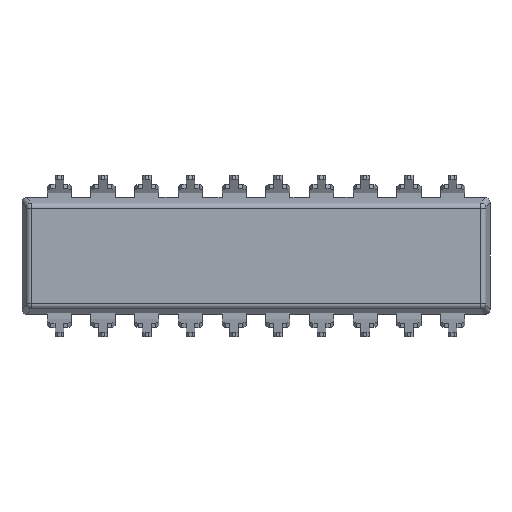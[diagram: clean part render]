
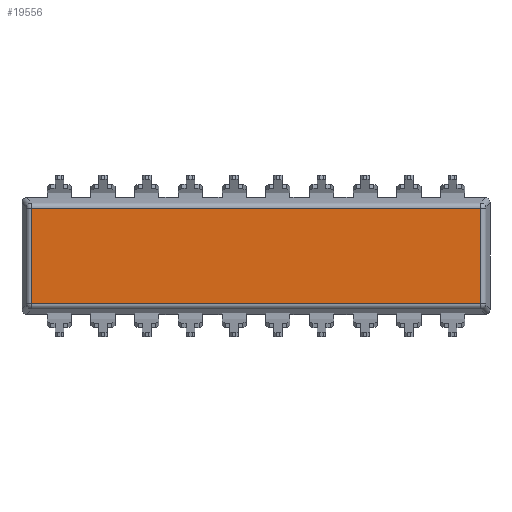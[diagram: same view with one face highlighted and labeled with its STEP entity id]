
A CAD part, front view. The second image highlights one B-rep face of the part: STEP entity #19556.
In plain terms, the highlighted planar face has unit normal (0, -1, 0).
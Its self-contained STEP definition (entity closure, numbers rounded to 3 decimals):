
#9930 = PLANE ( 'NONE',  #9993 ) ;
#9931 = FACE_OUTER_BOUND ( 'NONE', #19621, .T. ) ;
#9946 = CARTESIAN_POINT ( 'NONE',  ( 13.069, 0.5, -2.787 ) ) ;
#9947 = DIRECTION ( 'NONE',  ( 1., 0., 0. ) ) ;
#9948 = VECTOR ( 'NONE', #9947, 1000. ) ;
#9949 = CARTESIAN_POINT ( 'NONE',  ( -10.16, 0.5, -2.787 ) ) ;
#9950 = LINE ( 'NONE', #9949, #9948 ) ;
#9951 = CARTESIAN_POINT ( 'NONE',  ( -13.069, 0.5, 2.787 ) ) ;
#9989 = CARTESIAN_POINT ( 'NONE',  ( -13.069, 0.5, -2.787 ) ) ;
#9990 = DIRECTION ( 'NONE',  ( 0., 0., 1. ) ) ;
#9991 = DIRECTION ( 'NONE',  ( 0., 1., 0. ) ) ;
#9992 = CARTESIAN_POINT ( 'NONE',  ( -10.16, 0.5, 3. ) ) ;
#9993 = AXIS2_PLACEMENT_3D ( 'NONE', #9992, #9991, #9990 ) ;
#10043 = DIRECTION ( 'NONE',  ( 0., 0., -1. ) ) ;
#10044 = VECTOR ( 'NONE', #10043, 1000. ) ;
#10045 = CARTESIAN_POINT ( 'NONE',  ( -13.069, 0.5, 3. ) ) ;
#10046 = LINE ( 'NONE', #10045, #10044 ) ;
#10056 = DIRECTION ( 'NONE',  ( 0., 0., 1. ) ) ;
#10057 = VECTOR ( 'NONE', #10056, 1000. ) ;
#10058 = CARTESIAN_POINT ( 'NONE',  ( 13.069, 0.5, 3. ) ) ;
#10059 = LINE ( 'NONE', #10058, #10057 ) ;
#10155 = DIRECTION ( 'NONE',  ( -1., 0., 0. ) ) ;
#10156 = VECTOR ( 'NONE', #10155, 1000. ) ;
#10157 = CARTESIAN_POINT ( 'NONE',  ( -10.16, 0.5, 2.787 ) ) ;
#10158 = LINE ( 'NONE', #10157, #10156 ) ;
#10159 = CARTESIAN_POINT ( 'NONE',  ( 13.069, 0.5, 2.787 ) ) ;
#19545 = VERTEX_POINT ( 'NONE', #9951 ) ;
#19546 = EDGE_CURVE ( 'NONE', #19558, #19547, #9950, .T. ) ;
#19547 = VERTEX_POINT ( 'NONE', #9946 ) ;
#19556 = ADVANCED_FACE ( 'NONE', ( #9931 ), #9930, .F. ) ;
#19557 = ORIENTED_EDGE ( 'NONE', *, *, #19546, .T. ) ;
#19558 = VERTEX_POINT ( 'NONE', #9989 ) ;
#19577 = ORIENTED_EDGE ( 'NONE', *, *, #19578, .T. ) ;
#19578 = EDGE_CURVE ( 'NONE', #19547, #19630, #10059, .T. ) ;
#19586 = ORIENTED_EDGE ( 'NONE', *, *, #19587, .T. ) ;
#19587 = EDGE_CURVE ( 'NONE', #19545, #19558, #10046, .T. ) ;
#19621 = EDGE_LOOP ( 'NONE', ( #19557, #19577, #19631, #19586 ) ) ;
#19630 = VERTEX_POINT ( 'NONE', #10159 ) ;
#19631 = ORIENTED_EDGE ( 'NONE', *, *, #19632, .T. ) ;
#19632 = EDGE_CURVE ( 'NONE', #19630, #19545, #10158, .T. ) ;
